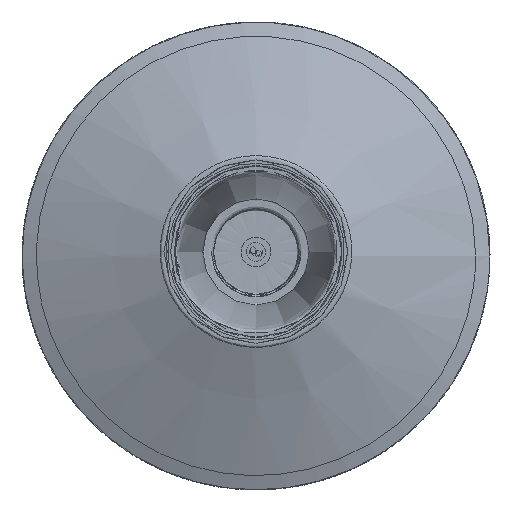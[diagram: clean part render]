
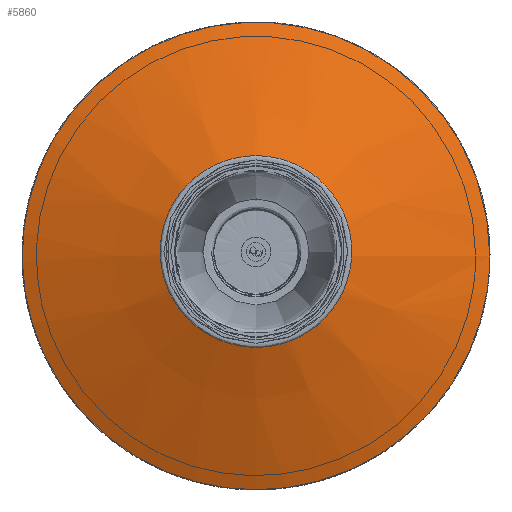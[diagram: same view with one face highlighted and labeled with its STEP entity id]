
A CAD part, top view. The second image highlights one B-rep face of the part: STEP entity #5860.
In plain terms, the highlighted free-form (B-spline) face has degree [2, 2] with [3, 9] control points.
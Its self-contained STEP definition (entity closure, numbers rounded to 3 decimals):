
#5860=ADVANCED_FACE('',(#13438),#127462,.T.);
#13438=FACE_OUTER_BOUND('',#21016,.T.);
#21016=EDGE_LOOP('',(#28610,#28611,#28612,#28613));
#28610=ORIENTED_EDGE('',*,*,#71012,.T.);
#28611=ORIENTED_EDGE('',*,*,#71010,.T.);
#28612=ORIENTED_EDGE('',*,*,#71012,.F.);
#28613=ORIENTED_EDGE('',*,*,#71021,.F.);
#71010=EDGE_CURVE('',#113857,#113857,#109053,.T.);
#71012=EDGE_CURVE('',#113858,#113857,#109055,.T.);
#71021=EDGE_CURVE('',#113858,#113858,#109063,.T.);
#109053=(
BOUNDED_CURVE()
B_SPLINE_CURVE(2,(#139627,#139628,#139629,#139630,#139631,#139632,#139633,
#139634,#139635),.UNSPECIFIED.,.T.,.F.)
B_SPLINE_CURVE_WITH_KNOTS((3,2,2,2,3),(0.,172.595,345.189,
517.784,690.378),.UNSPECIFIED.)
CURVE()
GEOMETRIC_REPRESENTATION_ITEM()
RATIONAL_B_SPLINE_CURVE((1.,0.707,1.,0.707,1.,0.707,
1.,0.707,1.))
REPRESENTATION_ITEM('')
);
#109055=(
BOUNDED_CURVE()
B_SPLINE_CURVE(2,(#139645,#139646,#139647),.UNSPECIFIED.,.F.,.F.)
B_SPLINE_CURVE_WITH_KNOTS((3,3),(392.627,513.937),
 .UNSPECIFIED.)
CURVE()
GEOMETRIC_REPRESENTATION_ITEM()
RATIONAL_B_SPLINE_CURVE((1.,1.,1.))
REPRESENTATION_ITEM('')
);
#109063=(
BOUNDED_CURVE()
B_SPLINE_CURVE(2,(#139705,#139706,#139707,#139708,#139709,#139710,#139711,
#139712,#139713),.UNSPECIFIED.,.T.,.F.)
B_SPLINE_CURVE_WITH_KNOTS((3,2,2,2,3),(0.,172.595,345.189,
517.784,690.378),.UNSPECIFIED.)
CURVE()
GEOMETRIC_REPRESENTATION_ITEM()
RATIONAL_B_SPLINE_CURVE((1.,0.707,1.,0.707,1.,0.707,
1.,0.707,1.))
REPRESENTATION_ITEM('')
);
#113857=VERTEX_POINT('',#139621);
#113858=VERTEX_POINT('',#139622);
#127462=(
BOUNDED_SURFACE()
B_SPLINE_SURFACE(2,2,((#139324,#139325,#139326,#139327,#139328,#139329,
#139330,#139331,#139332),(#139333,#139334,#139335,#139336,#139337,#139338,
#139339,#139340,#139341),(#139342,#139343,#139344,#139345,#139346,#139347,
#139348,#139349,#139350)),.UNSPECIFIED.,.F.,.F.,.F.)
B_SPLINE_SURFACE_WITH_KNOTS((3,3),(3,2,2,2,3),(392.627,513.937),
(0.,172.595,345.189,517.784,690.378),
 .UNSPECIFIED.)
GEOMETRIC_REPRESENTATION_ITEM()
RATIONAL_B_SPLINE_SURFACE(((1.,0.707,1.,0.707,1.,
0.707,1.,0.707,1.),(1.,0.707,1.,0.707,
1.,0.707,1.,0.707,1.),(1.,0.707,1.,
0.707,1.,0.707,1.,0.707,1.)))
REPRESENTATION_ITEM('')
SURFACE()
);
#139324=CARTESIAN_POINT('',(25.885,0.,-11.152));
#139325=CARTESIAN_POINT('',(25.885,25.885,-11.152));
#139326=CARTESIAN_POINT('',(0.,25.885,-11.152));
#139327=CARTESIAN_POINT('',(-25.885,25.885,-11.152));
#139328=CARTESIAN_POINT('',(-25.885,0.,-11.152));
#139329=CARTESIAN_POINT('',(-25.885,-25.885,-11.152));
#139330=CARTESIAN_POINT('',(0.,-25.885,-11.152));
#139331=CARTESIAN_POINT('',(25.885,-25.885,-11.152));
#139332=CARTESIAN_POINT('',(25.885,0.,-11.152));
#139333=CARTESIAN_POINT('',(66.905,0.,-27.383));
#139334=CARTESIAN_POINT('',(66.905,66.905,-27.383));
#139335=CARTESIAN_POINT('',(0.,66.905,-27.383));
#139336=CARTESIAN_POINT('',(-66.905,66.905,-27.383));
#139337=CARTESIAN_POINT('',(-66.905,0.,-27.383));
#139338=CARTESIAN_POINT('',(-66.905,-66.905,-27.383));
#139339=CARTESIAN_POINT('',(0.,-66.905,-27.383));
#139340=CARTESIAN_POINT('',(66.905,-66.905,-27.383));
#139341=CARTESIAN_POINT('',(66.905,0.,-27.383));
#139342=CARTESIAN_POINT('',(109.877,0.,-43.614));
#139343=CARTESIAN_POINT('',(109.877,109.877,-43.614));
#139344=CARTESIAN_POINT('',(0.,109.877,-43.614));
#139345=CARTESIAN_POINT('',(-109.877,109.877,-43.614));
#139346=CARTESIAN_POINT('',(-109.877,0.,-43.614));
#139347=CARTESIAN_POINT('',(-109.877,-109.877,-43.614));
#139348=CARTESIAN_POINT('',(0.,-109.877,-43.614));
#139349=CARTESIAN_POINT('',(109.877,-109.877,-43.614));
#139350=CARTESIAN_POINT('',(109.877,0.,-43.614));
#139621=CARTESIAN_POINT('',(109.877,0.,-43.614));
#139622=CARTESIAN_POINT('',(25.885,0.,-11.152));
#139627=CARTESIAN_POINT('',(109.877,0.,-43.614));
#139628=CARTESIAN_POINT('',(109.877,109.877,-43.614));
#139629=CARTESIAN_POINT('',(0.,109.877,-43.614));
#139630=CARTESIAN_POINT('',(-109.877,109.877,-43.614));
#139631=CARTESIAN_POINT('',(-109.877,0.,-43.614));
#139632=CARTESIAN_POINT('',(-109.877,-109.877,-43.614));
#139633=CARTESIAN_POINT('',(0.,-109.877,-43.614));
#139634=CARTESIAN_POINT('',(109.877,-109.877,-43.614));
#139635=CARTESIAN_POINT('',(109.877,0.,-43.614));
#139645=CARTESIAN_POINT('',(25.885,0.,-11.152));
#139646=CARTESIAN_POINT('',(66.905,0.,-27.383));
#139647=CARTESIAN_POINT('',(109.877,0.,-43.614));
#139705=CARTESIAN_POINT('',(25.885,0.,-11.152));
#139706=CARTESIAN_POINT('',(25.885,25.885,-11.152));
#139707=CARTESIAN_POINT('',(0.,25.885,-11.152));
#139708=CARTESIAN_POINT('',(-25.885,25.885,-11.152));
#139709=CARTESIAN_POINT('',(-25.885,0.,-11.152));
#139710=CARTESIAN_POINT('',(-25.885,-25.885,-11.152));
#139711=CARTESIAN_POINT('',(0.,-25.885,-11.152));
#139712=CARTESIAN_POINT('',(25.885,-25.885,-11.152));
#139713=CARTESIAN_POINT('',(25.885,0.,-11.152));
